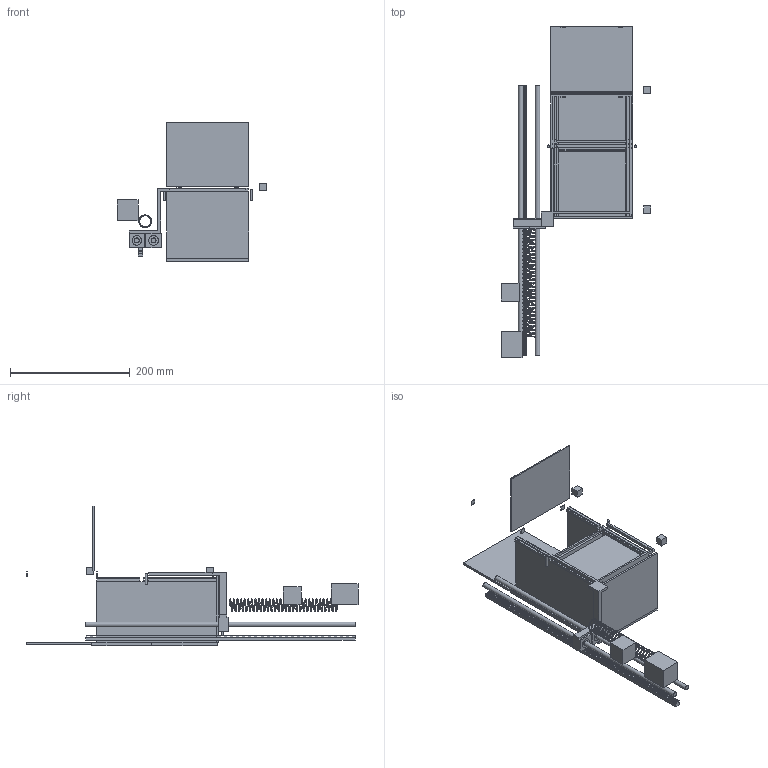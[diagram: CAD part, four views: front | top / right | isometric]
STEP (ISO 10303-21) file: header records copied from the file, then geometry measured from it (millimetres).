
FILE_DESCRIPTION(('FreeCAD Model'),'2;1');
FILE_NAME('Open CASCADE Shape Model','2026-10-19T11:23:16',('FreeCAD'),( 'FreeCAD'),'Open CASCADE STEP processor 7.8','FreeCAD','Unknown');
FILE_SCHEMA(('AUTOMOTIVE_DESIGN { 1 0 10303 214 1 1 1 1 }'));
Length unit declared in the file: millimetre
Products named in the file (1): Open CASCADE STEP translator 7.8 5
Bounding box: 250.5 x 555 x 234 mm (x, y, z)
Volume: 1961858.6 mm3; surface area: 494094.5 mm2
Topology: 29 solids, 29 shells, 1155 faces, 3288 edges, 2192 vertices
Faces by surface type: plane 1144, cylinder 10, bspline 1
Full cylindrical faces by diameter (mm): 4 x2, 8 x2, 8.5 x2, 16 x4
Entity records: 39877 total; most frequent: CARTESIAN_POINT 9774, ORIENTED_EDGE 6576, DIRECTION 5615, EDGE_CURVE 3288, LINE 3265, VECTOR 3265, VERTEX_POINT 2192, AXIS2_PLACEMENT_3D 1175
